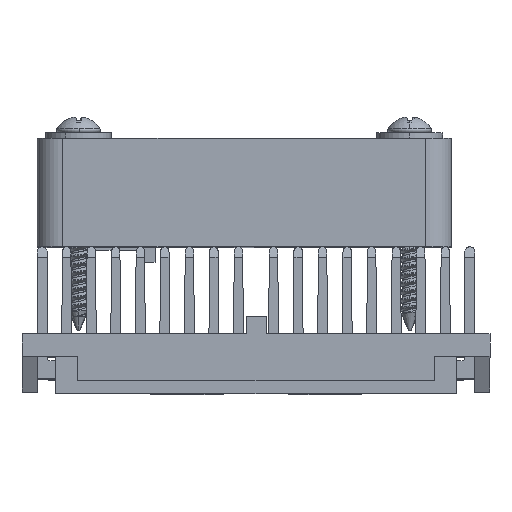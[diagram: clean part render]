
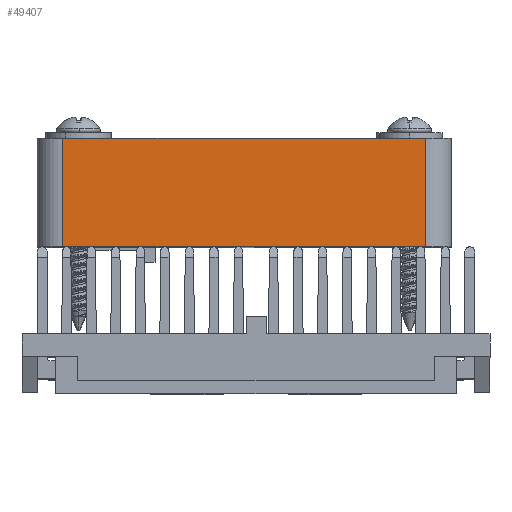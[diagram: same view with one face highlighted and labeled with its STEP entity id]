
A CAD part, top view. The second image highlights one B-rep face of the part: STEP entity #49407.
In plain terms, the highlighted planar face has unit normal (0, 0, 1).
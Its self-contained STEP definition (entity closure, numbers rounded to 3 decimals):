
#3091 = CARTESIAN_POINT ( 'NONE',  ( 16.35, 23.2, 20. ) ) ;
#4189 = PLANE ( 'NONE',  #56237 ) ;
#6432 = DIRECTION ( 'NONE',  ( 0., 0., -1. ) ) ;
#6448 = ORIENTED_EDGE ( 'NONE', *, *, #16663, .F. ) ;
#7686 = LINE ( 'NONE', #27420, #17884 ) ;
#8134 = EDGE_CURVE ( 'NONE', #47465, #52650, #7686, .T. ) ;
#8178 = LINE ( 'NONE', #3091, #32512 ) ;
#10776 = VERTEX_POINT ( 'NONE', #52383 ) ;
#12843 = CARTESIAN_POINT ( 'NONE',  ( -18.65, 23.2, 20. ) ) ;
#15013 = FACE_OUTER_BOUND ( 'NONE', #25972, .T. ) ;
#15106 = EDGE_CURVE ( 'NONE', #10776, #52650, #48057, .T. ) ;
#16663 = EDGE_CURVE ( 'NONE', #38675, #47465, #8178, .T. ) ;
#17884 = VECTOR ( 'NONE', #51606, 1000. ) ;
#18636 = VECTOR ( 'NONE', #27523, 1000. ) ;
#20975 = CARTESIAN_POINT ( 'NONE',  ( 16.35, 23.2, 20. ) ) ;
#22893 = ORIENTED_EDGE ( 'NONE', *, *, #8134, .F. ) ;
#22909 = CARTESIAN_POINT ( 'NONE',  ( 16.35, 12.7, 20. ) ) ;
#25972 = EDGE_LOOP ( 'NONE', ( #56677, #22893, #6448, #46272 ) ) ;
#26798 = CARTESIAN_POINT ( 'NONE',  ( 16.35, 12.7, 20. ) ) ;
#26875 = VECTOR ( 'NONE', #56991, 1000. ) ;
#27420 = CARTESIAN_POINT ( 'NONE',  ( 16.35, 23.2, 20. ) ) ;
#27523 = DIRECTION ( 'NONE',  ( 0., -1., 0. ) ) ;
#29747 = EDGE_CURVE ( 'NONE', #38675, #10776, #37107, .T. ) ;
#30993 = CARTESIAN_POINT ( 'NONE',  ( 16.35, 23.2, 20. ) ) ;
#32012 = CARTESIAN_POINT ( 'NONE',  ( -18.65, 23.2, 20. ) ) ;
#32512 = VECTOR ( 'NONE', #42210, 1000. ) ;
#35467 = DIRECTION ( 'NONE',  ( -1., 0., 0. ) ) ;
#37107 = LINE ( 'NONE', #12843, #18636 ) ;
#38675 = VERTEX_POINT ( 'NONE', #32012 ) ;
#42210 = DIRECTION ( 'NONE',  ( 1., 0., 0. ) ) ;
#46272 = ORIENTED_EDGE ( 'NONE', *, *, #29747, .T. ) ;
#47465 = VERTEX_POINT ( 'NONE', #20975 ) ;
#48057 = LINE ( 'NONE', #22909, #26875 ) ;
#49407 = ADVANCED_FACE ( 'NONE', ( #15013 ), #4189, .F. ) ;
#51606 = DIRECTION ( 'NONE',  ( 0., -1., 0. ) ) ;
#52383 = CARTESIAN_POINT ( 'NONE',  ( -18.65, 12.7, 20. ) ) ;
#52650 = VERTEX_POINT ( 'NONE', #26798 ) ;
#56237 = AXIS2_PLACEMENT_3D ( 'NONE', #30993, #6432, #35467 ) ;
#56677 = ORIENTED_EDGE ( 'NONE', *, *, #15106, .T. ) ;
#56991 = DIRECTION ( 'NONE',  ( 1., 0., 0. ) ) ;
